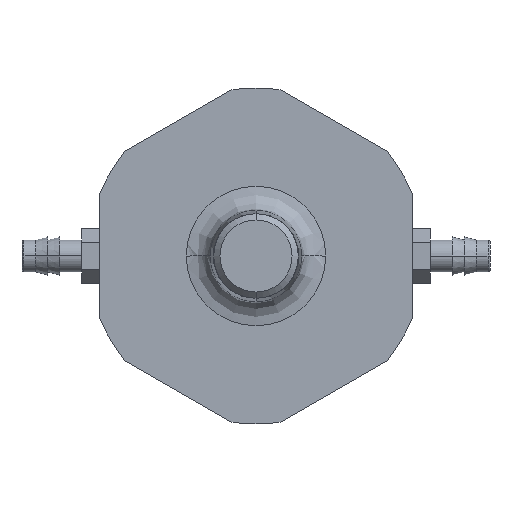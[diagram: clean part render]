
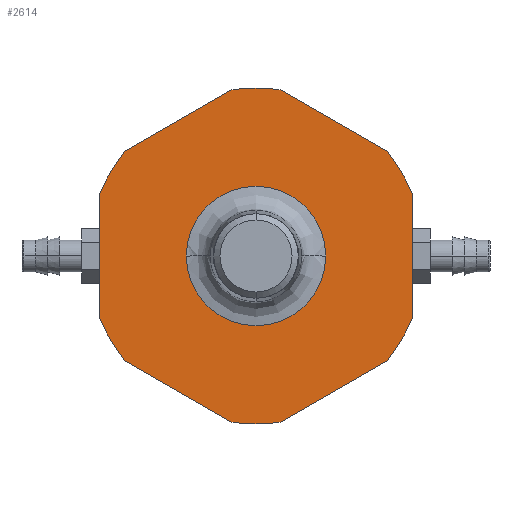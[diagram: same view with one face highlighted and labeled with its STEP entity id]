
A CAD part, left-side view. The second image highlights one B-rep face of the part: STEP entity #2614.
In plain terms, the highlighted planar face has unit normal (-1, 0, 0).
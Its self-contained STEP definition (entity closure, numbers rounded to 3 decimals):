
#2007=CARTESIAN_POINT('',(-3.375,0.363,0.));
#2008=VERTEX_POINT('',#2007);
#2018=CARTESIAN_POINT('',(-3.375,-0.363,0.));
#2019=VERTEX_POINT('',#2018);
#2020=CARTESIAN_POINT('',(-3.375,0.,0.0));
#2021=DIRECTION('',(-1.0,0.0,0.0));
#2022=DIRECTION('',(0.0,0.0,1.0));
#2023=AXIS2_PLACEMENT_3D('',#2020,#2021,#2022);
#2024=CIRCLE('',#2023,0.363);
#2025=EDGE_CURVE('',#2008,#2019,#2024,.T.);
#2092=CARTESIAN_POINT('',(-3.375,-0.687,-0.541));
#2093=VERTEX_POINT('',#2092);
#2100=CARTESIAN_POINT('',(-3.375,-0.125,-0.866));
#2101=VERTEX_POINT('',#2100);
#2102=CARTESIAN_POINT('',(-3.375,-0.687,-0.541));
#2103=DIRECTION('',(0.0,0.866,-0.5));
#2104=VECTOR('',#2103,0.65);
#2105=LINE('',#2102,#2104);
#2106=EDGE_CURVE('',#2093,#2101,#2105,.T.);
#2131=CARTESIAN_POINT('',(-3.375,-0.812,-0.325));
#2132=VERTEX_POINT('',#2131);
#2139=CARTESIAN_POINT('',(-3.375,0.,0.0));
#2140=DIRECTION('',(1.0,0.0,0.0));
#2141=DIRECTION('',(0.0,-0.866,-0.5));
#2142=AXIS2_PLACEMENT_3D('',#2139,#2140,#2141);
#2143=CIRCLE('',#2142,0.875);
#2144=EDGE_CURVE('',#2132,#2093,#2143,.T.);
#2163=CARTESIAN_POINT('',(-3.375,-0.812,0.325));
#2164=VERTEX_POINT('',#2163);
#2171=CARTESIAN_POINT('',(-3.375,-0.812,0.325));
#2172=DIRECTION('',(0.0,0.0,-1.0));
#2173=VECTOR('',#2172,0.65);
#2174=LINE('',#2171,#2173);
#2175=EDGE_CURVE('',#2164,#2132,#2174,.T.);
#2195=CARTESIAN_POINT('',(-3.375,-0.687,0.541));
#2196=VERTEX_POINT('',#2195);
#2203=CARTESIAN_POINT('',(-3.375,0.,0.0));
#2204=DIRECTION('',(1.0,0.0,0.0));
#2205=DIRECTION('',(0.0,-0.866,0.5));
#2206=AXIS2_PLACEMENT_3D('',#2203,#2204,#2205);
#2207=CIRCLE('',#2206,0.875);
#2208=EDGE_CURVE('',#2196,#2164,#2207,.T.);
#2227=CARTESIAN_POINT('',(-3.375,-0.125,0.866));
#2228=VERTEX_POINT('',#2227);
#2235=CARTESIAN_POINT('',(-3.375,-0.125,0.866));
#2236=DIRECTION('',(0.0,-0.866,-0.5));
#2237=VECTOR('',#2236,0.65);
#2238=LINE('',#2235,#2237);
#2239=EDGE_CURVE('',#2228,#2196,#2238,.T.);
#2259=CARTESIAN_POINT('',(-3.375,0.125,0.866));
#2260=VERTEX_POINT('',#2259);
#2267=CARTESIAN_POINT('',(-3.375,0.,0.0));
#2268=DIRECTION('',(1.0,0.0,0.0));
#2269=DIRECTION('',(0.0,0.0,1.0));
#2270=AXIS2_PLACEMENT_3D('',#2267,#2268,#2269);
#2271=CIRCLE('',#2270,0.875);
#2272=EDGE_CURVE('',#2260,#2228,#2271,.T.);
#2291=CARTESIAN_POINT('',(-3.375,0.688,0.541));
#2292=VERTEX_POINT('',#2291);
#2299=CARTESIAN_POINT('',(-3.375,0.688,0.541));
#2300=DIRECTION('',(0.0,-0.866,0.5));
#2301=VECTOR('',#2300,0.65);
#2302=LINE('',#2299,#2301);
#2303=EDGE_CURVE('',#2292,#2260,#2302,.T.);
#2323=CARTESIAN_POINT('',(-3.375,0.813,0.325));
#2324=VERTEX_POINT('',#2323);
#2331=CARTESIAN_POINT('',(-3.375,0.,0.0));
#2332=DIRECTION('',(1.0,0.0,0.0));
#2333=DIRECTION('',(0.0,0.866,0.5));
#2334=AXIS2_PLACEMENT_3D('',#2331,#2332,#2333);
#2335=CIRCLE('',#2334,0.875);
#2336=EDGE_CURVE('',#2324,#2292,#2335,.T.);
#2355=CARTESIAN_POINT('',(-3.375,0.813,-0.325));
#2356=VERTEX_POINT('',#2355);
#2363=CARTESIAN_POINT('',(-3.375,0.813,-0.325));
#2364=DIRECTION('',(0.0,0.0,1.0));
#2365=VECTOR('',#2364,0.65);
#2366=LINE('',#2363,#2365);
#2367=EDGE_CURVE('',#2356,#2324,#2366,.T.);
#2387=CARTESIAN_POINT('',(-3.375,0.688,-0.541));
#2388=VERTEX_POINT('',#2387);
#2395=CARTESIAN_POINT('',(-3.375,0.0,0.0));
#2396=DIRECTION('',(1.0,0.0,0.0));
#2397=DIRECTION('',(0.0,0.866,-0.5));
#2398=AXIS2_PLACEMENT_3D('',#2395,#2396,#2397);
#2399=CIRCLE('',#2398,0.875);
#2400=EDGE_CURVE('',#2388,#2356,#2399,.T.);
#2419=CARTESIAN_POINT('',(-3.375,0.125,-0.866));
#2420=VERTEX_POINT('',#2419);
#2427=CARTESIAN_POINT('',(-3.375,0.125,-0.866));
#2428=DIRECTION('',(0.0,0.866,0.5));
#2429=VECTOR('',#2428,0.65);
#2430=LINE('',#2427,#2429);
#2431=EDGE_CURVE('',#2420,#2388,#2430,.T.);
#2450=CARTESIAN_POINT('',(-3.375,0.,0.0));
#2451=DIRECTION('',(1.0,0.0,0.0));
#2452=DIRECTION('',(0.0,0.0,-1.0));
#2453=AXIS2_PLACEMENT_3D('',#2450,#2451,#2452);
#2454=CIRCLE('',#2453,0.875);
#2455=EDGE_CURVE('',#2101,#2420,#2454,.T.);
#2558=CARTESIAN_POINT('',(-3.375,0.,0.363));
#2559=VERTEX_POINT('',#2558);
#2560=CARTESIAN_POINT('',(-3.375,0.,0.0));
#2561=DIRECTION('',(-1.0,0.0,0.0));
#2562=DIRECTION('',(0.0,0.0,1.0));
#2563=AXIS2_PLACEMENT_3D('',#2560,#2561,#2562);
#2564=CIRCLE('',#2563,0.363);
#2565=EDGE_CURVE('',#2019,#2559,#2564,.T.);
#2567=CARTESIAN_POINT('',(-3.375,0.,0.0));
#2568=DIRECTION('',(-1.0,0.0,0.0));
#2569=DIRECTION('',(0.0,0.0,1.0));
#2570=AXIS2_PLACEMENT_3D('',#2567,#2568,#2569);
#2571=CIRCLE('',#2570,0.363);
#2572=EDGE_CURVE('',#2559,#2008,#2571,.T.);
#2590=CARTESIAN_POINT('',(-3.375,0.,0.0));
#2591=DIRECTION('',(-1.0,0.0,0.0));
#2592=DIRECTION('',(0.0,0.0,1.0));
#2593=AXIS2_PLACEMENT_3D('',#2590,#2591,#2592);
#2594=PLANE('',#2593);
#2595=ORIENTED_EDGE('',*,*,#2455,.F.);
#2596=ORIENTED_EDGE('',*,*,#2106,.F.);
#2597=ORIENTED_EDGE('',*,*,#2144,.F.);
#2598=ORIENTED_EDGE('',*,*,#2175,.F.);
#2599=ORIENTED_EDGE('',*,*,#2208,.F.);
#2600=ORIENTED_EDGE('',*,*,#2239,.F.);
#2601=ORIENTED_EDGE('',*,*,#2272,.F.);
#2602=ORIENTED_EDGE('',*,*,#2303,.F.);
#2603=ORIENTED_EDGE('',*,*,#2336,.F.);
#2604=ORIENTED_EDGE('',*,*,#2367,.F.);
#2605=ORIENTED_EDGE('',*,*,#2400,.F.);
#2606=ORIENTED_EDGE('',*,*,#2431,.F.);
#2607=EDGE_LOOP('',(#2595,#2596,#2597,#2598,#2599,#2600,#2601,#2602,#2603,#2604,#2605,#2606));
#2608=FACE_OUTER_BOUND('',#2607,.T.);
#2609=ORIENTED_EDGE('',*,*,#2572,.F.);
#2610=ORIENTED_EDGE('',*,*,#2565,.F.);
#2611=ORIENTED_EDGE('',*,*,#2025,.F.);
#2612=EDGE_LOOP('',(#2609,#2610,#2611));
#2613=FACE_BOUND('',#2612,.T.);
#2614=ADVANCED_FACE('',(#2608,#2613),#2594,.T.);
